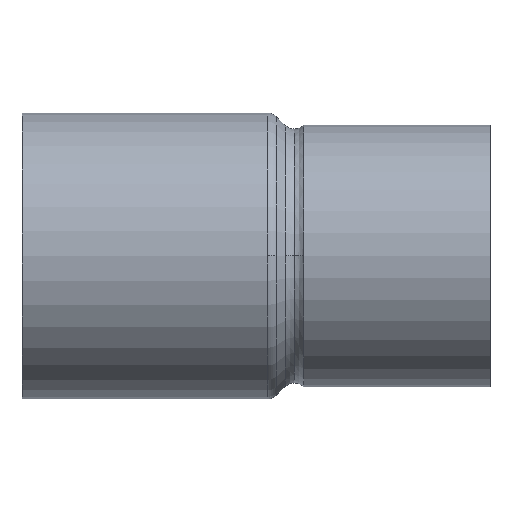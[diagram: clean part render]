
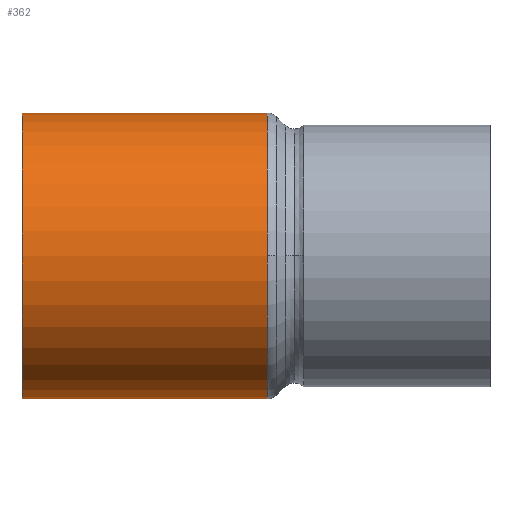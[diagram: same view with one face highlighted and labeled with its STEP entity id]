
A CAD part, top view. The second image highlights one B-rep face of the part: STEP entity #362.
In plain terms, the highlighted cylindrical face has radius 11 mm (diameter 22 mm), a partial arc.
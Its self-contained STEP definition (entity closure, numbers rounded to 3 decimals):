
#312=CARTESIAN_POINT('',(9.437,0.0,0.0));
#313=DIRECTION('',(1.0,0.0,0.0));
#314=DIRECTION('',(0.0,1.0,0.0));
#315=AXIS2_PLACEMENT_3D('',#312,#313,#314);
#316=CYLINDRICAL_SURFACE('',#315,11.0);
#317=CARTESIAN_POINT('',(0.,11.0,0.0));
#318=VERTEX_POINT('',#317);
#319=CARTESIAN_POINT('',(18.873,11.0,0.0));
#320=VERTEX_POINT('',#319);
#321=CARTESIAN_POINT('',(0.,11.0,0.0));
#322=DIRECTION('',(1.0,0.0,0.0));
#323=VECTOR('',#322,18.873);
#324=LINE('',#321,#323);
#325=EDGE_CURVE('',#318,#320,#324,.T.);
#326=ORIENTED_EDGE('',*,*,#325,.F.);
#327=CARTESIAN_POINT('',(0.0,-11.0,0.));
#328=VERTEX_POINT('',#327);
#329=CARTESIAN_POINT('',(0.,0.0,0.0));
#330=DIRECTION('',(1.0,0.0,0.0));
#331=DIRECTION('',(0.0,1.0,0.0));
#332=AXIS2_PLACEMENT_3D('',#329,#330,#331);
#333=CIRCLE('',#332,11.0);
#334=EDGE_CURVE('',#318,#328,#333,.T.);
#335=ORIENTED_EDGE('',*,*,#334,.T.);
#336=CARTESIAN_POINT('',(18.873,-11.0,0.));
#337=VERTEX_POINT('',#336);
#338=CARTESIAN_POINT('',(18.873,-11.0,0.));
#339=DIRECTION('',(-1.0,0.0,0.0));
#340=VECTOR('',#339,18.873);
#341=LINE('',#338,#340);
#342=EDGE_CURVE('',#337,#328,#341,.T.);
#343=ORIENTED_EDGE('',*,*,#342,.F.);
#344=CARTESIAN_POINT('',(18.873,0.,11.0));
#345=VERTEX_POINT('',#344);
#346=CARTESIAN_POINT('',(18.873,0.0,0.0));
#347=DIRECTION('',(1.0,0.0,0.0));
#348=DIRECTION('',(0.0,1.0,0.0));
#349=AXIS2_PLACEMENT_3D('',#346,#347,#348);
#350=CIRCLE('',#349,11.0);
#351=EDGE_CURVE('',#345,#337,#350,.T.);
#352=ORIENTED_EDGE('',*,*,#351,.F.);
#353=CARTESIAN_POINT('',(18.873,0.0,0.0));
#354=DIRECTION('',(1.0,0.0,0.0));
#355=DIRECTION('',(0.0,1.0,0.0));
#356=AXIS2_PLACEMENT_3D('',#353,#354,#355);
#357=CIRCLE('',#356,11.0);
#358=EDGE_CURVE('',#320,#345,#357,.T.);
#359=ORIENTED_EDGE('',*,*,#358,.F.);
#360=EDGE_LOOP('',(#326,#335,#343,#352,#359));
#361=FACE_OUTER_BOUND('',#360,.T.);
#362=ADVANCED_FACE('',(#361),#316,.T.);
